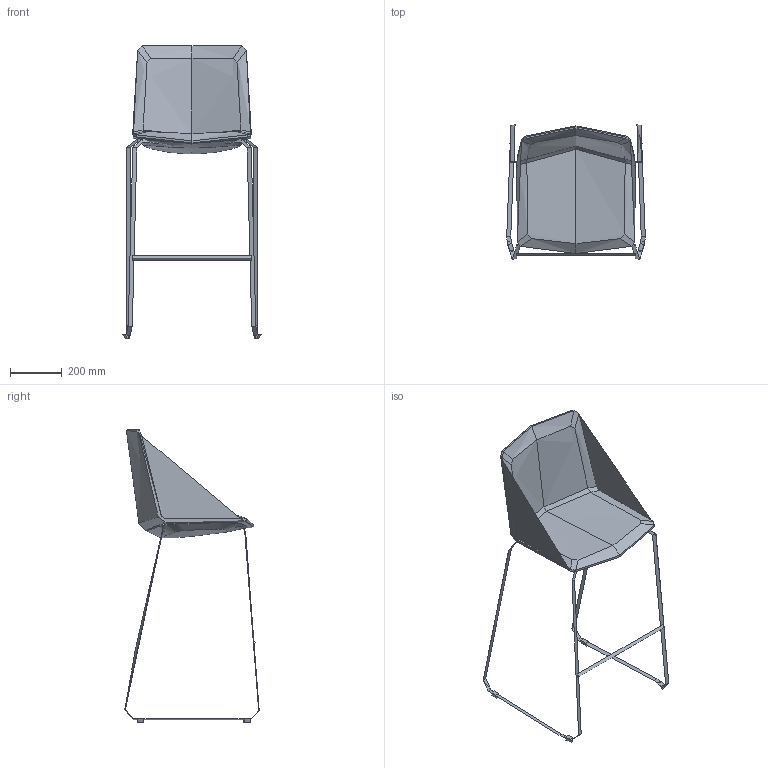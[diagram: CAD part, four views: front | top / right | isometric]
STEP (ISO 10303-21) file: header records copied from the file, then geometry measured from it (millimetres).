
FILE_DESCRIPTION(/* description */ (''),/* implementation_level */ '2;1');
FILE_NAME(/* name */ 'SK2193~1',/* time_stamp */ '2017-09-29T20:42:43+02:00',/* author */ (''),/* organization */ (''),/* preprocessor_version */ 'ST-DEVELOPER v15',/* originating_system */ '',/* authorisation */ '');
FILE_SCHEMA (('CONFIG_CONTROL_DESIGN'));
Length unit declared in the file: millimetre
Products named in the file (1): Document
Bounding box: 534.52 x 518.36 x 1129.5 mm (x, y, z)
Volume: 10547264.9 mm3; surface area: 1201233.7 mm2
Topology: 11 solids, 13 shells, 156 faces, 352 edges, 212 vertices
Faces by surface type: bspline 138, plane 18
Entity records: 17438 total; most frequent: CARTESIAN_POINT 15376, ORIENTED_EDGE 670, EDGE_CURVE 349, VERTEX_POINT 212, ADVANCED_FACE 156, FACE_OUTER_BOUND 156, EDGE_LOOP 156, B_SPLINE_CURVE_WITH_KNOTS 121
